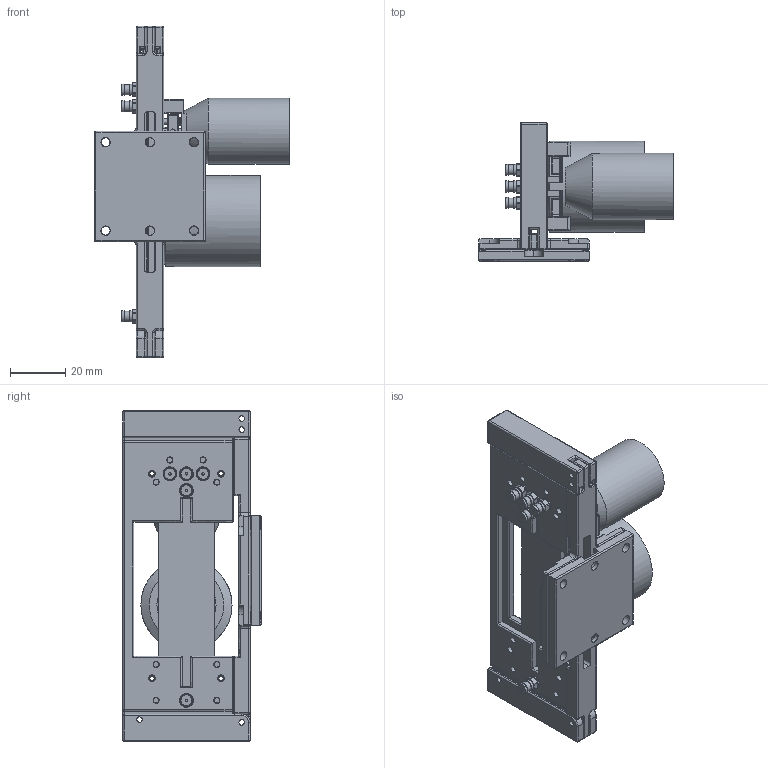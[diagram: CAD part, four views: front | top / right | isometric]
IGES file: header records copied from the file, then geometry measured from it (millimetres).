
Global section: file name: elasto-inertial_IACS_chipholder_design_3D v3; native system: unknown; preprocessor: unknown; author: unknown; organization: unknown; date: 20250920.185026; units: millimetre
Bounding box: 70.54 x 50 x 120 mm (x, y, z)
Volume: 87396.4 mm3; surface area: 46094.7 mm2
Topology: 44 solids, 44 shells, 1183 faces, 2649 edges, 1597 vertices
Faces by surface type: bspline 1183
